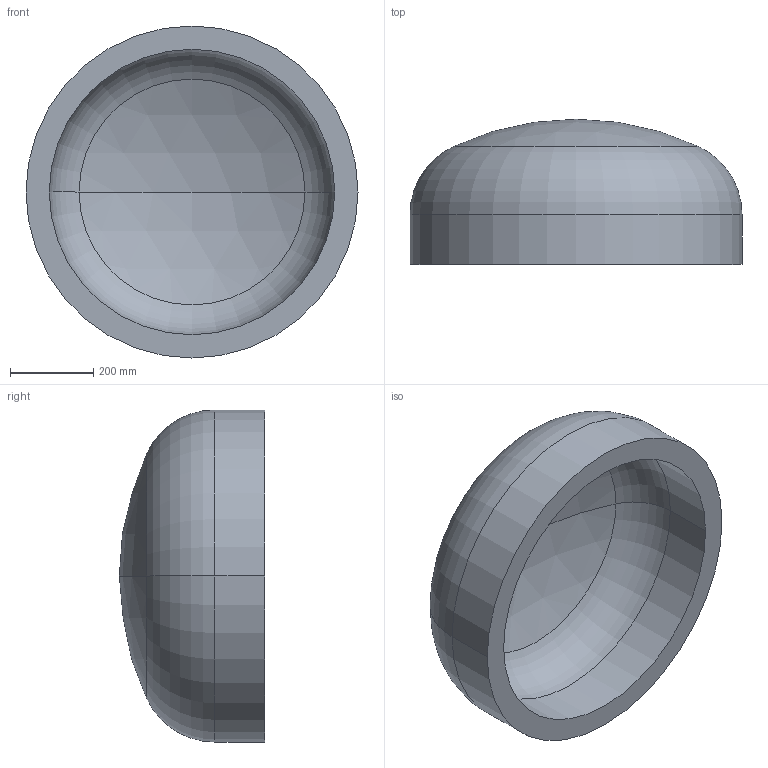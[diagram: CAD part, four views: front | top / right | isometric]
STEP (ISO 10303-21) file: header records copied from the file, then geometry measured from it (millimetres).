
FILE_DESCRIPTION (( 'STEP AP203' ), '1' );
FILE_NAME ('DIN 28013 Korbbogenform_-_Boden DIN 28013 - 800 x 120 - I - s=56.step', '2016-07-01T08:19:05', ( '' ), ( '' ), 'SwSTEP 2.0', 'SolidWorks 2013', '' );
FILE_SCHEMA (( 'CONFIG_CONTROL_DESIGN' ));
Length unit declared in the file: millimetre
Products named in the file (1): DIN 28013 Korbbogenform_-_Boden DIN 28013 - 800 x 120 - I - s=56
Bounding box: 800 x 349.88 x 800 mm (x, y, z)
Volume: 51497840.4 mm3; surface area: 1976667.6 mm2
Topology: 1 solids, 1 shells, 13 faces, 24 edges, 14 vertices
Faces by surface type: torus 4, cylinder 4, sphere 4, plane 1
Entity records: 407 total; most frequent: DIRECTION 72, CARTESIAN_POINT 52, ORIENTED_EDGE 48, AXIS2_PLACEMENT_3D 34, EDGE_CURVE 24, CIRCLE 20, VERTEX_POINT 14, EDGE_LOOP 14
